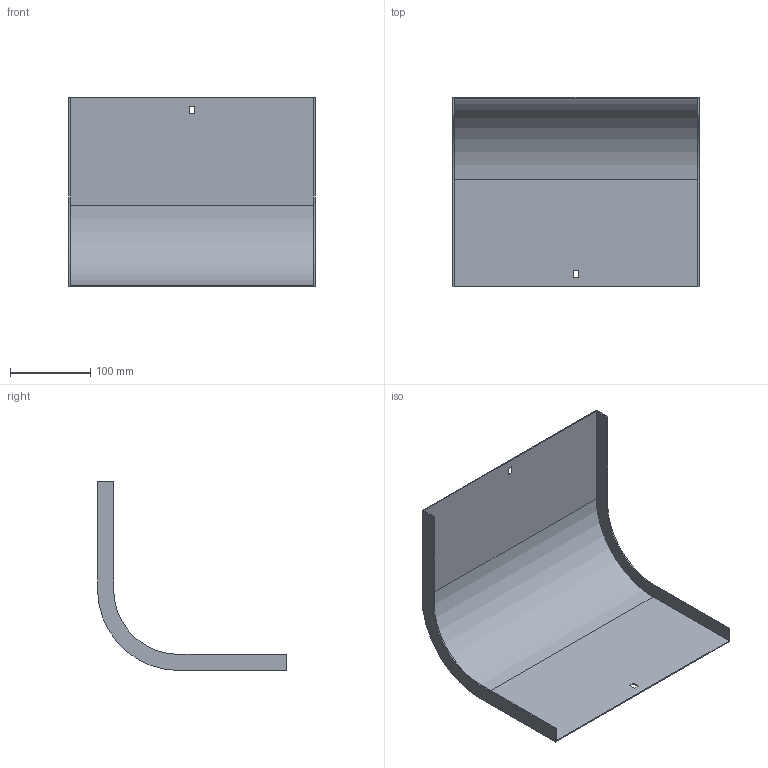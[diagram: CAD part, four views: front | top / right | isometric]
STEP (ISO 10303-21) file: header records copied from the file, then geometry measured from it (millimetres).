
FILE_DESCRIPTION (( 'STEP AP214' ), '1' );
FILE_NAME ('33G1D300.step', '2025-02-21T12:43:52', ( '' ), ( '' ), 'SwSTEP 2.0', 'SolidWorks 2023', '' );
FILE_SCHEMA (( 'AUTOMOTIVE_DESIGN' ));
Length unit declared in the file: millimetre
Products named in the file (1): 33G1D300
Bounding box: 307 x 235.5 x 235.5 mm (x, y, z)
Volume: 218901.7 mm3; surface area: 294185.5 mm2
Topology: 1 solids, 1 shells, 26 faces, 72 edges, 48 vertices
Faces by surface type: plane 22, cylinder 4
Entity records: 855 total; most frequent: CARTESIAN_POINT 147, ORIENTED_EDGE 144, DIRECTION 134, EDGE_CURVE 72, VECTOR 64, LINE 64, VERTEX_POINT 48, AXIS2_PLACEMENT_3D 35
